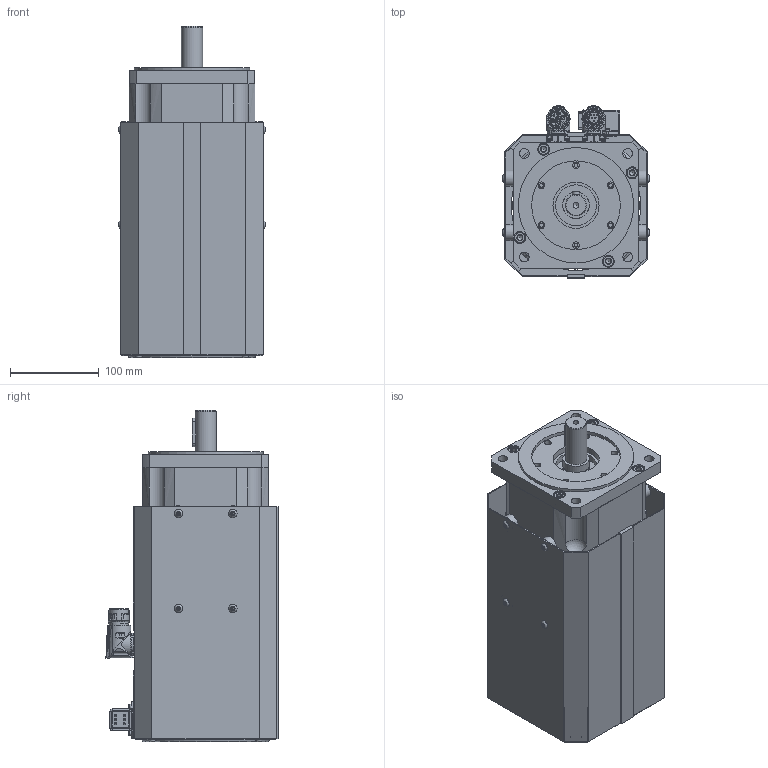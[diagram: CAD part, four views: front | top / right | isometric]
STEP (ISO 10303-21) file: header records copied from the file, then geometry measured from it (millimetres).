
FILE_DESCRIPTION(/* description */ (''),/* implementation_level */ '2;1');
FILE_NAME(/* name */ 'C:\Users\Public\Documents\Autodesk\Inventor LT 2014\Workspace\Motori Sito WEB\TG_5\DSF5_5\STEP_DSF5_5x\DSF5_51_x197.stp',/* time_stamp */ '2021-04-07T14:54:13+02:00',/* author */ ('marcor'),/* organization */ (''),/* preprocessor_version */ 'ST-DEVELOPER v15.2',/* originating_system */ 'Autodesk Inventor LT ',/* authorisation */ '');
FILE_SCHEMA (('AUTOMOTIVE_DESIGN { 1 0 10303 214 3 1 1 }'));
Products named in the file (1): DSF5_51_x197
Bounding box: 165.9 x 194.2 x 373.7 mm (x, y, z)
Volume: 4666353.7 mm3; surface area: 707774.6 mm2
Topology: 26 solids, 45 shells, 2123 faces, 5304 edges, 3479 vertices
Faces by surface type: plane 804, cylinder 600, cone 400, bspline 167, torus 104, sphere 48
Full cylindrical faces by diameter (mm): 1.2 x12, 2.013 x8, 2.2 x4, 2.224 x8, 2.233 x6, 2.4 x6, 2.5 x8, 2.88 x8, 3 x4, 3.26 x8, 3.5 x10, 4 x4, 4.134 x8, 4.5 x16, 4.8 x8, 4.917 x4, 5 x8, 5.5 x13, 5.9 x2, 6 x4, 6.5 x12, 6.647 x9, 7.5 x10, 8 x8, 8.5 x8, 10 x4, 11 x8, 12 x1, 13 x8, 13.5 x8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
Entity records: 71564 total; most frequent: CARTESIAN_POINT 23494, ORIENTED_EDGE 9376, DIRECTION 9131, EDGE_CURVE 4644, AXIS2_PLACEMENT_3D 3698, VERTEX_POINT 3287, EDGE_LOOP 2901, ADVANCED_FACE 2123
